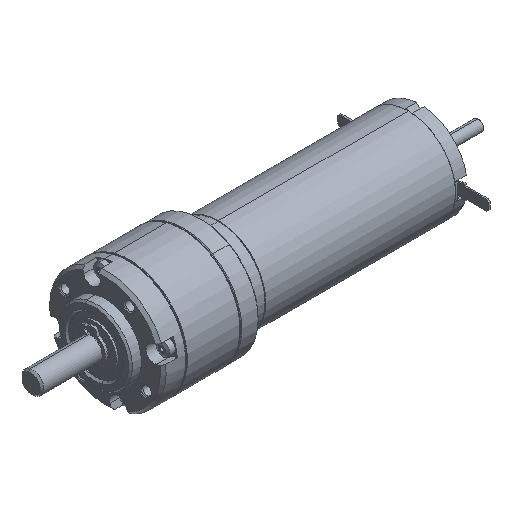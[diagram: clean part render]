
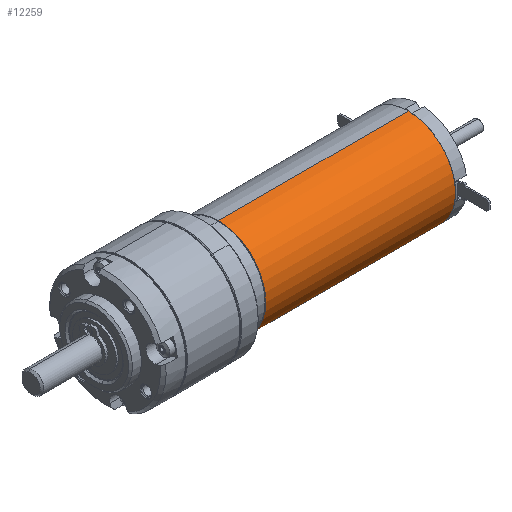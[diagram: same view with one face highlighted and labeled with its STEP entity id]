
A CAD part, isometric view. The second image highlights one B-rep face of the part: STEP entity #12259.
In plain terms, the highlighted cylindrical face has radius 13 mm (diameter 26 mm), a partial arc.
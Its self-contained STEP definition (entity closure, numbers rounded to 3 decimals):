
#2570 = CARTESIAN_POINT ( 'NONE',  ( 57., 0., -13. ) ) ;
#6063 = DIRECTION ( 'NONE',  ( 0., 0., 1. ) ) ;
#7231 = AXIS2_PLACEMENT_3D ( 'NONE', #48764, #55907, #84473 ) ;
#9573 = ORIENTED_EDGE ( 'NONE', *, *, #29088, .T. ) ;
#12259 = ADVANCED_FACE ( 'NONE', ( #19938 ), #63254, .T. ) ;
#13037 = DIRECTION ( 'NONE',  ( -1., 0., 0. ) ) ;
#13258 = ORIENTED_EDGE ( 'NONE', *, *, #91427, .T. ) ;
#15266 = CARTESIAN_POINT ( 'NONE',  ( 57., 0., 13. ) ) ;
#19938 = FACE_OUTER_BOUND ( 'NONE', #80018, .T. ) ;
#20627 = LINE ( 'NONE', #48539, #56242 ) ;
#22248 = CARTESIAN_POINT ( 'NONE',  ( 4.8, 0., -13. ) ) ;
#23997 = EDGE_CURVE ( 'NONE', #59778, #85697, #20627, .T. ) ;
#27742 = VERTEX_POINT ( 'NONE', #43652 ) ;
#29088 = EDGE_CURVE ( 'NONE', #27742, #85697, #78133, .T. ) ;
#36206 = DIRECTION ( 'NONE',  ( -1., 0., 0. ) ) ;
#37796 = DIRECTION ( 'NONE',  ( 1., 0., 0. ) ) ;
#42679 = VERTEX_POINT ( 'NONE', #15266 ) ;
#43652 = CARTESIAN_POINT ( 'NONE',  ( 4.8, 0., 13. ) ) ;
#45409 = AXIS2_PLACEMENT_3D ( 'NONE', #91308, #48723, #6063 ) ;
#48539 = CARTESIAN_POINT ( 'NONE',  ( 30.9, 0., -13. ) ) ;
#48723 = DIRECTION ( 'NONE',  ( -1., 0., 0. ) ) ;
#48764 = CARTESIAN_POINT ( 'NONE',  ( 30.9, 0., 0. ) ) ;
#53630 = LINE ( 'NONE', #78866, #91436 ) ;
#55907 = DIRECTION ( 'NONE',  ( -1., 0., 0. ) ) ;
#56242 = VECTOR ( 'NONE', #13037, 1000. ) ;
#56367 = AXIS2_PLACEMENT_3D ( 'NONE', #80387, #37796, #87564 ) ;
#58755 = ORIENTED_EDGE ( 'NONE', *, *, #23997, .F. ) ;
#59778 = VERTEX_POINT ( 'NONE', #2570 ) ;
#61026 = EDGE_CURVE ( 'NONE', #59778, #42679, #90953, .T. ) ;
#63254 = CYLINDRICAL_SURFACE ( 'NONE', #7231, 13. ) ;
#78133 = CIRCLE ( 'NONE', #56367, 13. ) ;
#78866 = CARTESIAN_POINT ( 'NONE',  ( 30.9, 0., 13. ) ) ;
#80018 = EDGE_LOOP ( 'NONE', ( #58755, #81733, #13258, #9573 ) ) ;
#80387 = CARTESIAN_POINT ( 'NONE',  ( 4.8, 0., 0. ) ) ;
#81733 = ORIENTED_EDGE ( 'NONE', *, *, #61026, .T. ) ;
#84473 = DIRECTION ( 'NONE',  ( 0., 0., 1. ) ) ;
#85697 = VERTEX_POINT ( 'NONE', #22248 ) ;
#87564 = DIRECTION ( 'NONE',  ( 0., 0., 1. ) ) ;
#90953 = CIRCLE ( 'NONE', #45409, 13. ) ;
#91308 = CARTESIAN_POINT ( 'NONE',  ( 57., 0., 0. ) ) ;
#91427 = EDGE_CURVE ( 'NONE', #42679, #27742, #53630, .T. ) ;
#91436 = VECTOR ( 'NONE', #36206, 1000. ) ;
